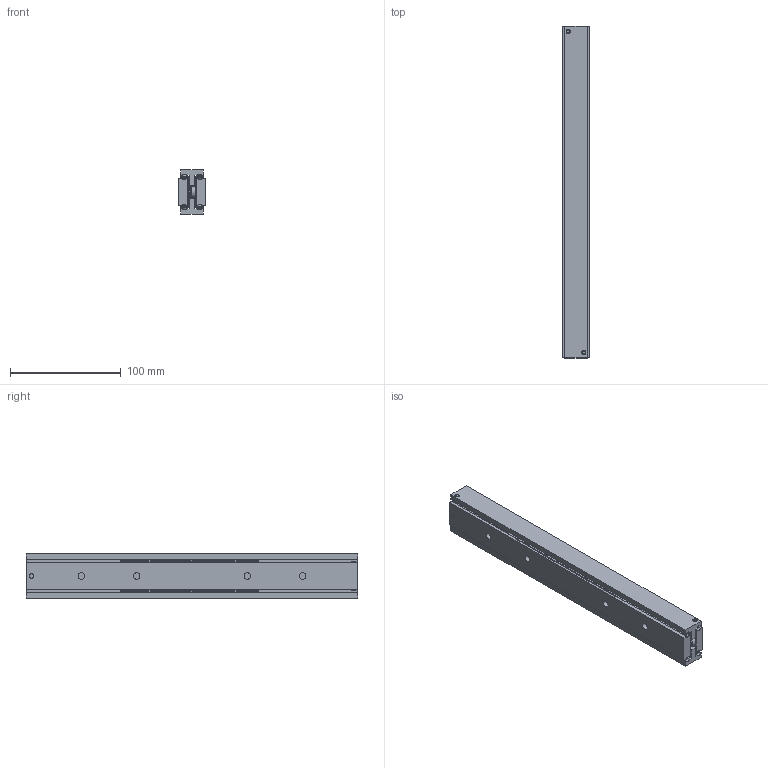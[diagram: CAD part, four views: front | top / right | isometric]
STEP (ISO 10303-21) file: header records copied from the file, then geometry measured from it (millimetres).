
FILE_DESCRIPTION(/* description */ (''),/* implementation_level */ '2;1');
FILE_NAME(/* name */ 'C:\Users\Miluxor\Desktop\Miluxor Schienen\Original Zeichnungen\Zeichnungen Schienen Komplett\MX-DTP40\MX-DTP40.030\MX-DTP40.030_eingefahren.stp',/* time_stamp */ '2019-10-04T14:00:38+02:00',/* author */ ('Miluxor'),/* organization */ (''),/* preprocessor_version */ 'ST-DEVELOPER v16.13',/* originating_system */ 'AutoCAD Mechanical',/* authorisation */ '');
FILE_SCHEMA (('AUTOMOTIVE_DESIGN { 1 0 10303 214 3 1 1 }'));
Products named in the file (1): Product
Bounding box: 24 x 300 x 40.5 mm (x, y, z)
Volume: 226170.6 mm3; surface area: 114628 mm2
Topology: 41 solids, 41 shells, 362 faces, 920 edges, 608 vertices
Faces by surface type: plane 212, bspline 68, cylinder 48, sphere 20, cone 8, torus 6
Full cylindrical faces by diameter (mm): 4 x2, 6 x28, 10 x2
Entity records: 47863 total; most frequent: CARTESIAN_POINT 39833, ORIENTED_EDGE 1648, DIRECTION 1380, EDGE_CURVE 824, VERTEX_POINT 598, LINE 498, VECTOR 498, EDGE_LOOP 472
